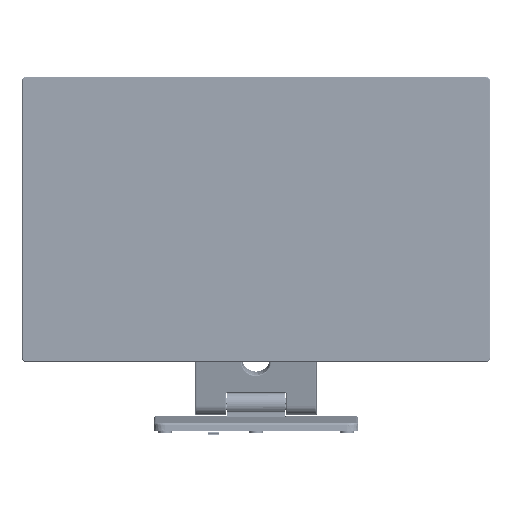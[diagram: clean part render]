
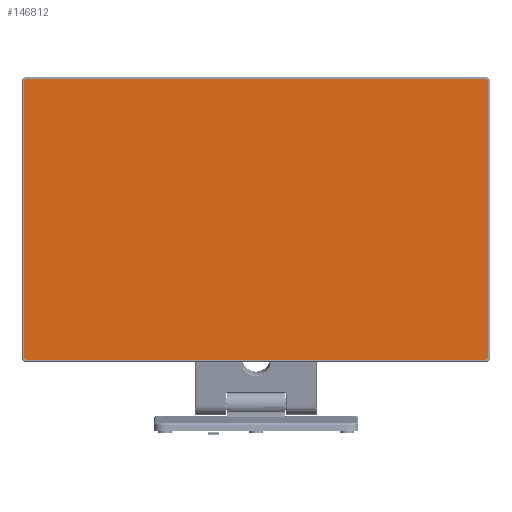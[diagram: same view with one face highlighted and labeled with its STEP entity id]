
A CAD part, front view. The second image highlights one B-rep face of the part: STEP entity #146812.
In plain terms, the highlighted planar face has unit normal (0, -1, 0) as drawn and (0, 0, 1) by its records, which use the part's own axes.
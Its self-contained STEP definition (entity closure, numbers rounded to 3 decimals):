
#146449=DIRECTION('',(1.,0.,0.));
#146450=VECTOR('',#146449,480.47);
#146451=CARTESIAN_POINT('',(-240.235,-149.89,1.1));
#146452=LINE('',#146451,#146450);
#146453=CARTESIAN_POINT('',(-240.235,-147.99,1.1));
#146454=DIRECTION('',(0.,0.,-1.));
#146455=DIRECTION('',(0.,-1.,0.));
#146456=AXIS2_PLACEMENT_3D('',#146453,#146454,#146455);
#146458=DIRECTION('',(0.,1.,0.));
#146459=VECTOR('',#146458,289.38);
#146460=CARTESIAN_POINT('',(-242.135,-147.99,1.1));
#146461=LINE('',#146460,#146459);
#146462=CARTESIAN_POINT('',(-240.235,141.39,1.1));
#146463=DIRECTION('',(0.,0.,-1.));
#146464=DIRECTION('',(-1.,0.,0.));
#146465=AXIS2_PLACEMENT_3D('',#146462,#146463,#146464);
#146467=DIRECTION('',(1.,0.,0.));
#146468=VECTOR('',#146467,480.47);
#146469=CARTESIAN_POINT('',(-240.235,143.29,1.1));
#146470=LINE('',#146469,#146468);
#146471=CARTESIAN_POINT('',(240.235,141.39,1.1));
#146472=DIRECTION('',(0.,0.,-1.));
#146473=DIRECTION('',(0.,1.,0.));
#146474=AXIS2_PLACEMENT_3D('',#146471,#146472,#146473);
#146476=DIRECTION('',(0.,-1.,0.));
#146477=VECTOR('',#146476,289.38);
#146478=CARTESIAN_POINT('',(242.135,141.39,1.1));
#146479=LINE('',#146478,#146477);
#146480=CARTESIAN_POINT('',(240.235,-147.99,1.1));
#146481=DIRECTION('',(0.,0.,-1.));
#146482=DIRECTION('',(1.,0.,0.));
#146483=AXIS2_PLACEMENT_3D('',#146480,#146481,#146482);
#146603=CARTESIAN_POINT('',(-242.135,-147.99,1.1));
#146604=VERTEX_POINT('',#146603);
#146605=CARTESIAN_POINT('',(-240.235,-149.89,1.1));
#146606=VERTEX_POINT('',#146605);
#146607=CARTESIAN_POINT('',(-242.135,141.39,1.1));
#146608=VERTEX_POINT('',#146607);
#146609=CARTESIAN_POINT('',(-240.235,143.29,1.1));
#146610=VERTEX_POINT('',#146609);
#146611=CARTESIAN_POINT('',(240.235,143.29,1.1));
#146612=VERTEX_POINT('',#146611);
#146613=CARTESIAN_POINT('',(242.135,141.39,1.1));
#146614=VERTEX_POINT('',#146613);
#146615=CARTESIAN_POINT('',(242.135,-147.99,1.1));
#146616=VERTEX_POINT('',#146615);
#146617=CARTESIAN_POINT('',(240.235,-149.89,1.1));
#146618=VERTEX_POINT('',#146617);
#146797=CARTESIAN_POINT('',(0.,0.,1.1));
#146798=DIRECTION('',(0.,0.,1.));
#146799=DIRECTION('',(1.,0.,0.));
#146800=AXIS2_PLACEMENT_3D('',#146797,#146798,#146799);
#146801=PLANE('',#146800);
#146802=ORIENTED_EDGE('',*,*,#146693,.T.);
#146803=ORIENTED_EDGE('',*,*,#146709,.T.);
#146804=ORIENTED_EDGE('',*,*,#146722,.T.);
#146805=ORIENTED_EDGE('',*,*,#146737,.T.);
#146806=ORIENTED_EDGE('',*,*,#146750,.T.);
#146807=ORIENTED_EDGE('',*,*,#146763,.T.);
#146808=ORIENTED_EDGE('',*,*,#146778,.T.);
#146809=ORIENTED_EDGE('',*,*,#146790,.F.);
#146810=EDGE_LOOP('',(#146802,#146803,#146804,#146805,#146806,#146807,#146808,
#146809));
#146811=FACE_OUTER_BOUND('',#146810,.F.);
#146812=ADVANCED_FACE('',(#146811),#146801,.T.);
#146457=CIRCLE('',#146456,1.9);
#146466=CIRCLE('',#146465,1.9);
#146475=CIRCLE('',#146474,1.9);
#146484=CIRCLE('',#146483,1.9);
#146693=EDGE_CURVE('',#146606,#146604,#146457,.T.);
#146709=EDGE_CURVE('',#146604,#146608,#146461,.T.);
#146722=EDGE_CURVE('',#146608,#146610,#146466,.T.);
#146737=EDGE_CURVE('',#146610,#146612,#146470,.T.);
#146750=EDGE_CURVE('',#146612,#146614,#146475,.T.);
#146763=EDGE_CURVE('',#146614,#146616,#146479,.T.);
#146778=EDGE_CURVE('',#146616,#146618,#146484,.T.);
#146790=EDGE_CURVE('',#146606,#146618,#146452,.T.);
